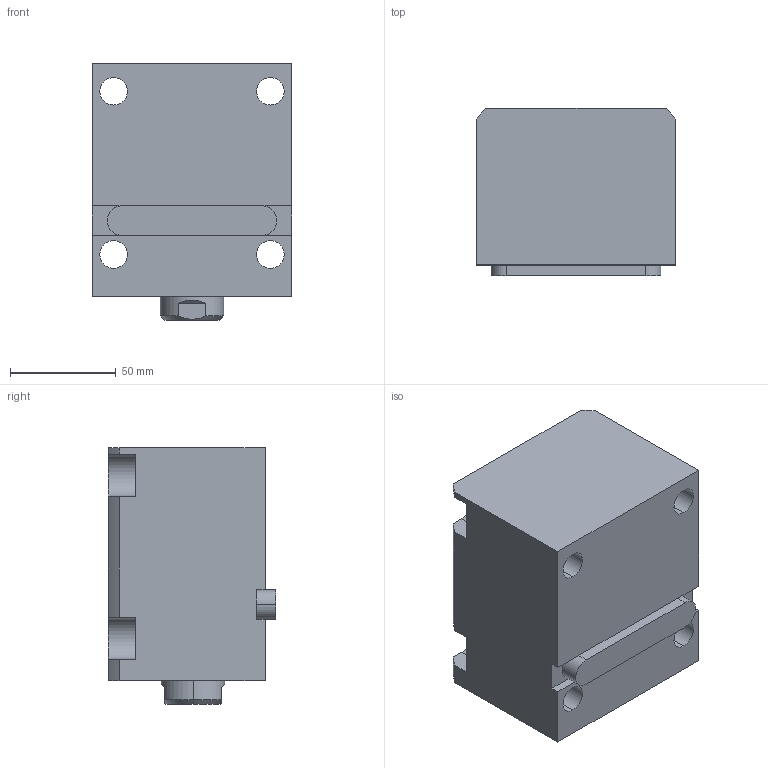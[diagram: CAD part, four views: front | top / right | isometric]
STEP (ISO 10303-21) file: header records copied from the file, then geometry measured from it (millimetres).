
FILE_DESCRIPTION (( 'STEP AP203' ), '1' );
FILE_NAME ('CHTB-LA50-50N.STEP', '2018-05-18T01:33:22', ( '' ), ( '' ), 'SwSTEP 2.0', 'SolidWorks 2015', '' );
FILE_SCHEMA (( 'CONFIG_CONTROL_DESIGN' ));
Length unit declared in the file: millimetre
Products named in the file (4): CHTB-LA50-50N; CHTM-SDMA50QG; 掛极LA50-50N; 活塞杆LA50-50N
Assembly tree (3 placements, depth 2):
  CHTB-LA50-50N
    掛极LA50-50N
    活塞杆LA50-50N
    CHTM-SDMA50QG
Bounding box: 94 x 79 x 121 mm (x, y, z)
Volume: 646343.2 mm3; surface area: 112698.7 mm2
Topology: 3 solids, 3 shells, 202 faces, 542 edges, 358 vertices
Faces by surface type: cylinder 96, plane 53, cone 23, torus 16, bspline 14
Entity records: 11255 total; most frequent: CARTESIAN_POINT 5992, ORIENTED_EDGE 1072, DIRECTION 958, EDGE_CURVE 536, AXIS2_PLACEMENT_3D 377, VERTEX_POINT 358, EDGE_LOOP 234, LINE 204
